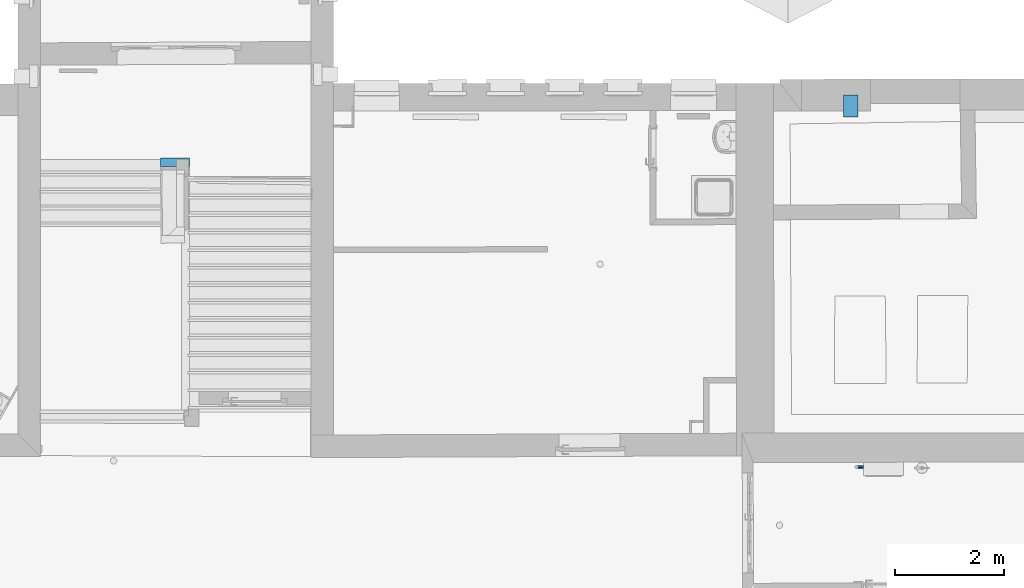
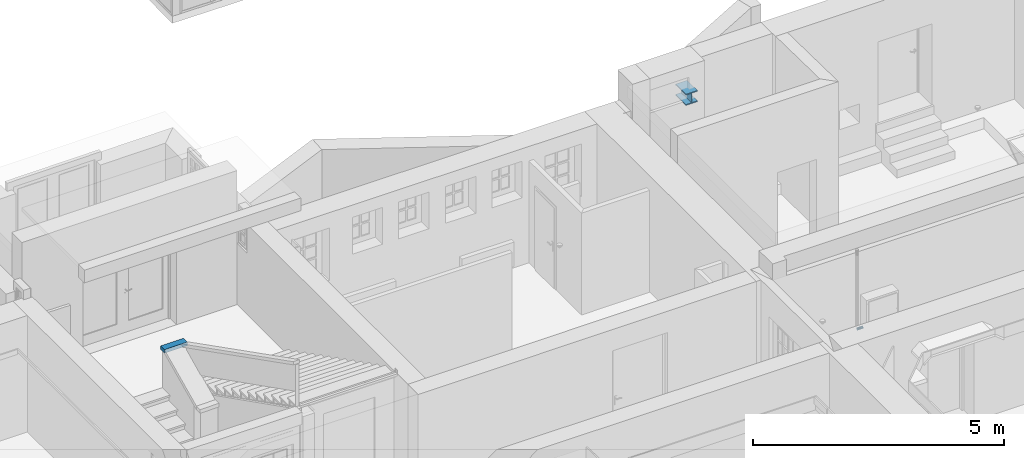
# One storey, part 9 of 196: 3 beams.
"""IFC2X3 building model written with IfcOpenShell, lengths in metres."""

from ifc_helpers import new_model, entity, si_unit, converted_unit, derived_unit, money_unit, direction, frame, frame_2d, origin_with_axes, place, context, subcontext, project, spatial, polyline, rectangle, circle, outline, extrude, clip, halfspace, material, type_object, element, save


model = new_model("IFC2X3")

# Units and contexts
model_context = context("Model", 3, precision=1e-05, world=origin_with_axes(), true_north=direction((0.0, 1.0)))
body_context = subcontext(model_context, "Body", "Model", "MODEL_VIEW")
ifc_project = project(units=[si_unit("LENGTHUNIT", "METRE"), si_unit("AREAUNIT", "SQUARE_METRE"), si_unit("VOLUMEUNIT", "CUBIC_METRE"), converted_unit("PLANEANGLEUNIT", "DEGREE", entity("IfcPlaneAngleMeasure", 0.0174532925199), si_unit("PLANEANGLEUNIT", "RADIAN"), dimensions=[0, 0, 0, 0, 0, 0, 0]), money_unit("EUR"), converted_unit("TIMEUNIT", "Year", entity("IfcTimeMeasure", 31556926.0), si_unit("TIMEUNIT", "SECOND"), dimensions=[0, 0, 1, 0, 0, 0, 0]), si_unit("MASSUNIT", "GRAM", prefix="KILO"), si_unit("THERMODYNAMICTEMPERATUREUNIT", "DEGREE_CELSIUS"), si_unit("LUMINOUSINTENSITYUNIT", "LUMEN"), si_unit("ENERGYUNIT", "JOULE", prefix="MEGA"), derived_unit("THERMALCONDUCTANCEUNIT", [(si_unit("POWERUNIT", "WATT"), 1), (si_unit("LENGTHUNIT", "METRE"), -1), (si_unit("THERMODYNAMICTEMPERATUREUNIT", "KELVIN"), -1)]), derived_unit("SPECIFICHEATCAPACITYUNIT", [(si_unit("ENERGYUNIT", "JOULE"), 1), (si_unit("MASSUNIT", "GRAM", prefix="KILO"), -1), (si_unit("THERMODYNAMICTEMPERATUREUNIT", "KELVIN"), -1)]), derived_unit("MASSDENSITYUNIT", [(si_unit("MASSUNIT", "GRAM", prefix="KILO"), 1), (si_unit("VOLUMEUNIT", "CUBIC_METRE"), -1)])], contexts=[model_context])

# Site, building, storey
site_placement = place(None, origin_with_axes())
site = spatial("IfcSite", under=ifc_project, at=site_placement, Name="Gelände", CompositionType="ELEMENT")
building_placement = place(site_placement, origin_with_axes())
building = spatial("IfcBuilding", under=site, at=building_placement, Name="Gebäude", CompositionType="ELEMENT")
storey_placement = place(building_placement, frame((0.0, 0.0, -3.0), z_axis=(0.0, 0.0, 1.0), x_axis=(1.0, 0.0, 0.0)))
storey = spatial("IfcBuildingStorey", under=building, at=storey_placement, Name="KELLERGESCHOSS", CompositionType="ELEMENT", Elevation=-3.0)

# Beams
ifc_material_1 = material(Name="56_Metall, Stahl verzinkt")
beam_type_1 = type_object("IfcBeamType", Name="56_Metall, Stahl verzinkt D60", PredefinedType="LINTEL")
beam_1_placement = place(storey_placement, frame((5.1357309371, 19.0437288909, 0.987261), z_axis=(0.0, 0.0, 1.0), x_axis=(0.000613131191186, -0.999999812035, 0.0)))
element("IfcBeam", 1, at=beam_1_placement, inside=storey, type_object=beam_type_1, material=ifc_material_1, Name="Unterzug-018", ObjectType="LINTEL", context=body_context, shape_type="SweptSolid", body=[
    extrude(circle(Radius=0.03, at=frame_2d((0.0, -0.03), x_axis=(1.0, 0.0))), frame((0.0, 0.0, 0.0), z_axis=(0.0, 1.0, 0.0), x_axis=(0.0, 0.0, 1.0)), (0.0, 0.0, 1.0), 0.127768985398),
])
ifc_material_2 = material(Name="05_ALLGEMEIN - TRAGENDE BAUTEILE")
beam_type_2 = type_object("IfcBeamType", Name="05_ALLGEMEIN - TRAGENDE BAUTEILE 153 x 89", PredefinedType="LINTEL")
beam_2_placement = place(storey_placement, frame((-7.10363822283, 24.74597653, 1.51914844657), z_axis=(0.0, 0.0, 1.0), x_axis=(-0.00453302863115, 0.999989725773, 0.0)))
element("IfcBeam", 2, at=beam_2_placement, inside=storey, type_object=beam_type_2, material=ifc_material_2, Name="Unterzug-023", ObjectType="LINTEL", context=body_context, shape_type="Clipping", body=[
    clip(clip(extrude(rectangle(XDim=0.0887427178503, YDim=0.153158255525, at=frame_2d((0.0443713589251, -0.0765791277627), x_axis=(1.0, 0.0))), frame((0.0, -0.000103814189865, 8.58748247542e-08), z_axis=(0.0, 0.999999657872, -0.00082719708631), x_axis=(0.0, 0.00082719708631, 0.999999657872)), (0.0, 0.0, 1.0), 0.531508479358), halfspace(frame((0.0, 0.0, 0.0), z_axis=(0.0, 1.0, 0.0), x_axis=(0.0, 0.0, 1.0)), True)), halfspace(frame((0.0, 0.531300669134, 0.0), z_axis=(0.0, -1.0, 0.0), x_axis=(0.0, 0.0, -1.0)), True)),
])
ifc_material_3 = material(Name="Stahl verzinkt")
beam_type_3 = type_object("IfcBeamType", Name="HD260X142 265 x 278", PredefinedType="LINTEL")
beam_3_placement = place(storey_placement, frame((5.03320987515, 25.4969176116, 2.7516582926), z_axis=(0.0, 0.0, 1.0), x_axis=(0.999994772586, 0.00323338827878, 0.0)))
element("IfcBeam", 3, at=beam_3_placement, inside=storey, type_object=beam_type_3, material=ifc_material_3, Name="Unterzug-023", ObjectType="LINTEL", context=body_context, shape_type="SweptSolid", body=[
    extrude(outline(polyline([(0.0, 0.139), (-0.1325, 0.139), (-0.1325, 0.1125), (-0.00775, 0.1125), (-0.00775, -0.1125), (-0.1325, -0.1125), (-0.1325, -0.139), (0.1325, -0.139), (0.1325, -0.1125), (0.00775, -0.1125), (0.00775, 0.1125), (0.1325, 0.1125), (0.1325, 0.139), (0.0, 0.139)])), frame((0.0, 0.407278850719, 0.0), z_axis=(0.0, -1.0, 0.0), x_axis=(1.0, 0.0, 0.0)), (0.0, 0.0, 1.0), 0.407278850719),
])

save(model, "model.ifc")
